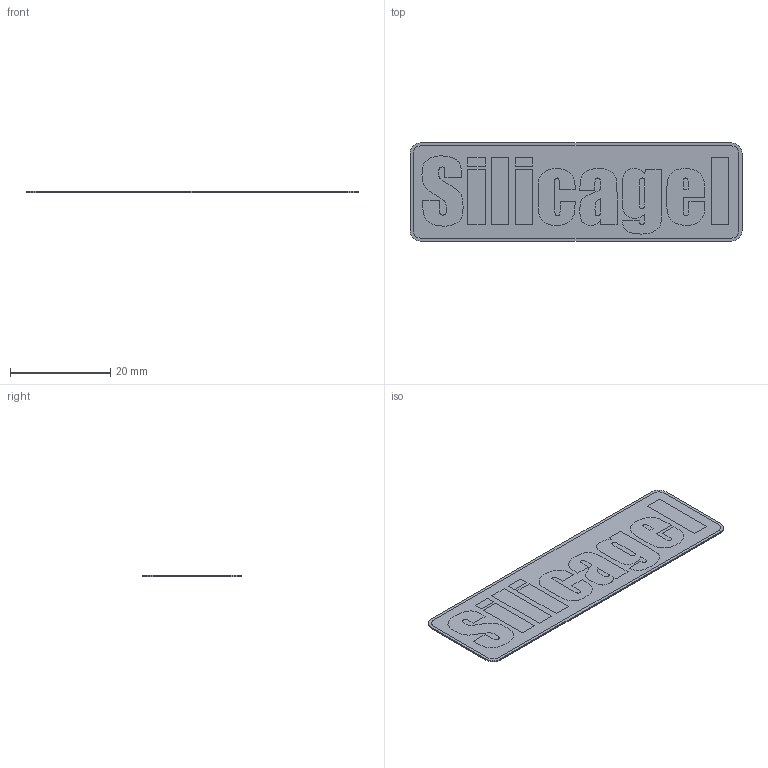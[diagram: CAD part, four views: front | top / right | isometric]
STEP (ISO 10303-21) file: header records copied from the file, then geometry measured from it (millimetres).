
FILE_DESCRIPTION (( 'STEP AP214' ), '1' );
FILE_NAME ('Label.STEP', '2025-11-02T17:51:35', ( '' ), ( '' ), 'SwSTEP 2.0', 'SolidWorks 2025', '' );
FILE_SCHEMA (( 'AUTOMOTIVE_DESIGN' ));
Length unit declared in the file: millimetre
Products named in the file (1): Label
Bounding box: 66.2 x 19.56 x 0.3 mm (x, y, z)
Volume: 387.3 mm3; surface area: 4154.3 mm2
Topology: 13 solids, 13 shells, 305 faces, 792 edges, 528 vertices
Faces by surface type: plane 181, bspline 108, cylinder 16
Entity records: 15249 total; most frequent: CARTESIAN_POINT 8326, ORIENTED_EDGE 1584, DIRECTION 1004, EDGE_CURVE 792, VECTOR 544, LINE 544, VERTEX_POINT 528, EDGE_LOOP 328
